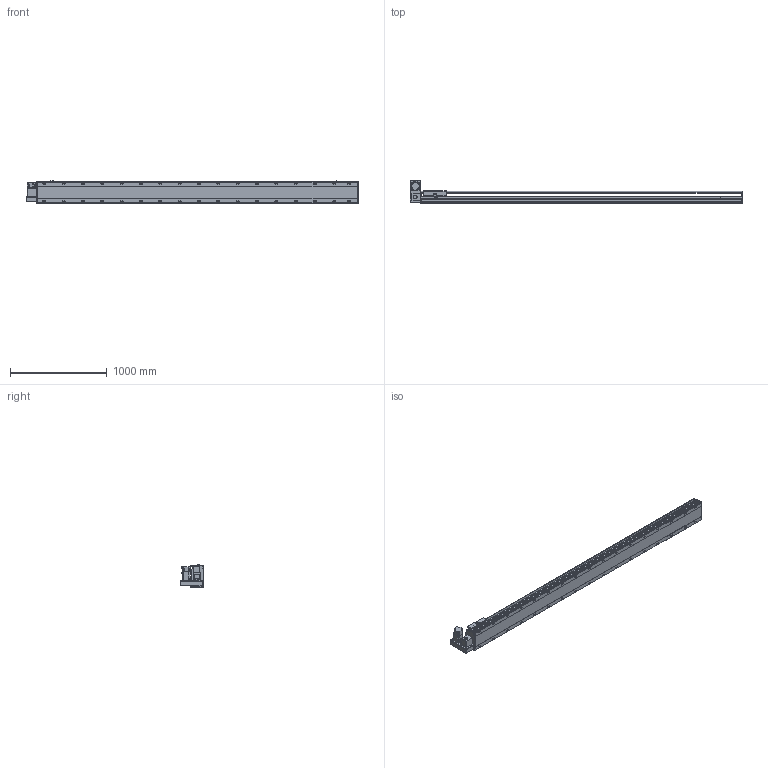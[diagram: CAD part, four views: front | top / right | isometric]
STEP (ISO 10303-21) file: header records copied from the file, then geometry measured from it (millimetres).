
FILE_DESCRIPTION(/* description */ ('STEP AP214'),/* implementation_level */ '2;1');
FILE_NAME(/* name */ 'PBS220-P40-S2950-LU-T75-C1-N(0)',/* time_stamp */ '2022-06-13T02:39:43+02:00',/* author */ ('License CC BY-ND 4.0'),/* organization */ ('CADENAS'),/* preprocessor_version */ 'ST-DEVELOPER v18.102',/* originating_system */ 'PARTsolutions',/* authorisation */ ' ');
FILE_SCHEMA (('AUTOMOTIVE_DESIGN {1 0 10303 214 3 1 1}'));
Length unit declared in the file: millimetre
Products named in the file (7): PBS220-P40-S2950-LU-T75-C1-N(0); PBS220_sensor; PBS220_plant; PBS220_sliser; T75-p1; PBS220T-LU_motors; PBS220-S2950()_body
Assembly tree (8 placements, depth 2):
  PBS220-P40-S2950-LU-T75-C1-N(0)
    PBS220_sensor  x3
    PBS220_plant
    PBS220_sliser
    T75-p1
    PBS220T-LU_motors
    PBS220-S2950()_body
Bounding box: 3434 x 247 x 238.5 mm (x, y, z)
Volume: 47719399 mm3; surface area: 4334950.5 mm2
Topology: 8 solids, 8 shells, 1022 faces, 2648 edges, 1720 vertices
Faces by surface type: plane 634, cylinder 330, cone 58
Full cylindrical faces by diameter (mm): 2.013 x4, 4.5 x14, 4.917 x4, 6 x7, 6.647 x8, 8 x10, 8.376 x34, 8.5 x34, 10 x6, 14 x34, 38 x2, 40 x1, 70 x1
Entity records: 28437 total; most frequent: CARTESIAN_POINT 5086, DIRECTION 4941, ORIENTED_EDGE 4430, EDGE_CURVE 2215, AXIS2_PLACEMENT_3D 1789, VERTEX_POINT 1560, LINE 1363, VECTOR 1363
